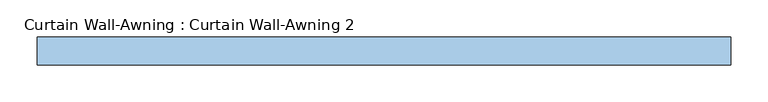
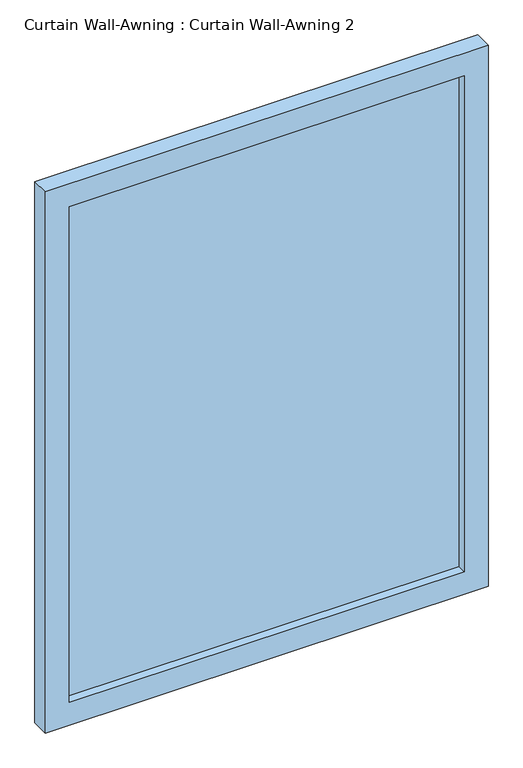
"""IFC4 building model written with IfcOpenShell, lengths in millimetres: window geometry, Curtain Wall-Awning : Curtain Wall-Awning 2."""

import ifcopenshell
import ifcopenshell.guid

model = None  # the IFC model being written
_history = None  # IfcOwnerHistory: only IFC2X3 demands one
_inside = {}  # id of a spatial element -> (the spatial element, [elements in it])
_under = {}  # id of a project, library or spatial element -> (it, [spatial elements below it])
_declared = {}  # id of a project -> (the project, [libraries it declares])
_typed = {}  # id of a type object -> (the type object, [elements of that type])
_made_of = {}  # id of a material, layer set ... -> (it, [elements and type objects made of it])


def new_model(schema):
    """Start an empty IFC model of exactly this schema.

    Asked for "IFC4X3", IfcOpenShell would pick the latest addendum, in which some entities
    have other attributes; the version numbers below select the first issue.
    IFC2X3 requires an IfcOwnerHistory on every rooted entity: one is made here for all.
    """
    global model, _history
    if schema == "IFC4X3":
        model = ifcopenshell.file(schema_version=(4, 3, 0, 0))
    else:
        model = ifcopenshell.file(schema=schema)
    _inside.clear()
    _under.clear()
    _declared.clear()
    _typed.clear()
    _made_of.clear()
    _history = None
    if model.schema == "IFC2X3":
        org = make("IfcOrganization", Name="unknown")
        user = make(
            "IfcPersonAndOrganization",
            ThePerson=make("IfcPerson", FamilyName="unknown"),
            TheOrganization=org,
        )
        app = make(
            "IfcApplication",
            ApplicationDeveloper=org,
            Version="unknown",
            ApplicationFullName="unknown",
            ApplicationIdentifier="unknown",
        )
        _history = make(
            "IfcOwnerHistory",
            OwningUser=user,
            OwningApplication=app,
            ChangeAction="ADDED",
            CreationDate=0,
        )
    return model


def make(cls, **values):
    """One entity of the class cls with the attributes given. An attribute that is None is left unset."""
    return model.create_entity(
        cls, **{name: value for name, value in values.items() if value is not None}
    )


def rooted(cls, **values):
    """An entity with a GlobalId (a new one), such as an element, a storey or a relation."""
    return make(cls, GlobalId=ifcopenshell.guid.new(), OwnerHistory=_history, **values)


def si_unit(unit_type, name, prefix=None):
    """IfcSIUnit, for example si_unit("LENGTHUNIT", "METRE", prefix="MILLI")."""
    return make("IfcSIUnit", UnitType=unit_type, Prefix=prefix, Name=name)


def assignment(units):
    """IfcUnitAssignment: the units of a project."""
    return None if units is None else make("IfcUnitAssignment", Units=units)


def point(xyz):
    """IfcCartesianPoint."""
    return None if xyz is None else make("IfcCartesianPoint", Coordinates=xyz)


def direction(xyz):
    """IfcDirection."""
    return None if xyz is None else make("IfcDirection", DirectionRatios=xyz)


def frame(location, z_axis=None, x_axis=None):
    """IfcAxis2Placement3D, a coordinate frame: its origin and axes. An axis left out is left unset."""
    return make(
        "IfcAxis2Placement3D",
        Location=point(location),
        Axis=direction(z_axis),
        RefDirection=direction(x_axis),
    )


def origin():
    """The frame at (0, 0, 0) with its axes left unset."""
    return frame((0.0, 0.0, 0.0))


def place(relative_to, where):
    """IfcLocalPlacement: puts the frame where relative to a parent placement (None: the world)."""
    return make(
        "IfcLocalPlacement", PlacementRelTo=relative_to, RelativePlacement=where
    )


def context(
    kind, dimensions, precision=None, world=None, true_north=None, identifier=None
):
    """IfcGeometricRepresentationContext, for example the 3D "Model" context."""
    return make(
        "IfcGeometricRepresentationContext",
        ContextIdentifier=identifier,
        ContextType=kind,
        CoordinateSpaceDimension=dimensions,
        Precision=precision,
        WorldCoordinateSystem=world,
        TrueNorth=true_north,
    )


def project(units=None, contexts=None):
    """IfcProject with its units and contexts."""
    return rooted(
        "IfcProject",
        Name="project",
        RepresentationContexts=contexts,
        UnitsInContext=assignment(units),
    )


def spatial(cls, under=None, at=None, **own):
    """A site, building, storey or space (cls), placed at a placement, below another one or the project."""
    s = rooted(cls, ObjectPlacement=at, **own)
    if under is not None:
        _under.setdefault(under.id(), (under, []))[1].append(s)
    return s


def polyline(points):
    """IfcPolyline through the points."""
    return make("IfcPolyline", Points=[point(p) for p in points])


def outline(outer, holes=None, kind="AREA"):
    """IfcArbitraryClosedProfileDef: a profile drawn as a closed curve; with holes, ...WithVoids."""
    if holes is None:
        return make("IfcArbitraryClosedProfileDef", ProfileType=kind, OuterCurve=outer)
    return make(
        "IfcArbitraryProfileDefWithVoids",
        ProfileType=kind,
        OuterCurve=outer,
        InnerCurves=holes,
    )


def extrude(swept, where, along, depth):
    """IfcExtrudedAreaSolid: the profile swept, set in the frame where, extruded along a direction by depth."""
    return make(
        "IfcExtrudedAreaSolid",
        SweptArea=swept,
        Position=where,
        ExtrudedDirection=direction(along),
        Depth=depth,
    )


def shape(context_of_items, identifier, shape_type, items):
    """IfcShapeRepresentation: the items that make up one representation, for example the "Body"."""
    return make(
        "IfcShapeRepresentation",
        ContextOfItems=context_of_items,
        RepresentationIdentifier=identifier,
        RepresentationType=shape_type,
        Items=items,
    )


def source(mapping_origin, context_of_items, identifier, shape_type, items):
    """IfcRepresentationMap: a shape defined once, which mapped items show again and again."""
    return make(
        "IfcRepresentationMap",
        MappingOrigin=mapping_origin,
        MappedRepresentation=shape(context_of_items, identifier, shape_type, items),
    )


def transform(
    local_origin,
    x_axis=None,
    y_axis=None,
    z_axis=None,
    scale=None,
    scale2=None,
    scale3=None,
    uniform=True,
):
    """IfcCartesianTransformationOperator3D, or its non-uniform kind. x_axis, y_axis, z_axis: its Axis1, 2, 3."""
    if uniform:
        return make(
            "IfcCartesianTransformationOperator3D",
            Axis1=direction(x_axis),
            Axis2=direction(y_axis),
            LocalOrigin=point(local_origin),
            Scale=scale,
            Axis3=direction(z_axis),
        )
    return make(
        "IfcCartesianTransformationOperator3DnonUniform",
        Axis1=direction(x_axis),
        Axis2=direction(y_axis),
        LocalOrigin=point(local_origin),
        Scale=scale,
        Axis3=direction(z_axis),
        Scale2=scale2,
        Scale3=scale3,
    )


def mapped(mapping_source, mapping_target):
    """IfcMappedItem: shows the shape of a source again, moved by a transform."""
    return make(
        "IfcMappedItem", MappingSource=mapping_source, MappingTarget=mapping_target
    )


def made_of(thing, what):
    """Note that an element or type object is made of a material, layer set ...; save() writes the relation."""
    if what is not None:
        _made_of.setdefault(what.id(), (what, []))[1].append(thing)
    return thing


def element(
    cls,
    number,
    at=None,
    inside=None,
    cuts=None,
    type_object=None,
    material=None,
    context=None,
    identifier="Body",
    shape_type=None,
    held_by="IfcProductDefinitionShape",
    body=None,
    shapes=None,
    **own,
):
    """One element of the class cls, such as IfcWall. Its Tag is "e" and its number.

    at: its placement. inside: the storey or other place that contains it. cuts: it is an
    opening in that element (IfcRelVoidsElement). A single representation is given by context,
    identifier, shape_type and body (its items); several are given by shapes. held_by: the class
    of the entity that holds the representations. save() writes the other relations.
    """
    e = rooted(cls, Tag="e%d" % number, ObjectPlacement=at, **own)
    if body is not None:
        shapes = [shape(context, identifier, shape_type, body)]
    if shapes is not None:
        e.Representation = make(held_by, Representations=shapes)
    if inside is not None:
        _inside.setdefault(inside.id(), (inside, []))[1].append(e)
    if cuts is not None:
        rooted(
            "IfcRelVoidsElement", RelatingBuildingElement=cuts, RelatedOpeningElement=e
        )
    if type_object is not None:
        _typed.setdefault(type_object.id(), (type_object, []))[1].append(e)
    return made_of(e, material)


def aggregate(whole, parts):
    """IfcRelAggregates: a whole, such as a stair, and the parts it consists of."""
    return rooted("IfcRelAggregates", RelatingObject=whole, RelatedObjects=parts)


def save(model, path):
    """Write the relations noted so far, then the file.

    IfcRelAggregates (storeys below a building ...), IfcRelContainedInSpatialStructure (elements
    in a storey), IfcRelDefinesByType, IfcRelAssociatesMaterial and IfcRelDeclares: one each for
    every whole, place, type object, material and project.
    """
    for whole, parts in _under.values():
        aggregate(whole, parts)
    for where, things in _inside.values():
        rooted(
            "IfcRelContainedInSpatialStructure",
            RelatedElements=things,
            RelatingStructure=where,
        )
    for kind, things in _typed.values():
        rooted("IfcRelDefinesByType", RelatedObjects=things, RelatingType=kind)
    for what, things in _made_of.values():
        rooted("IfcRelAssociatesMaterial", RelatedObjects=things, RelatingMaterial=what)
    for by, libraries in _declared.values():
        rooted("IfcRelDeclares", RelatingContext=by, RelatedDefinitions=libraries)
    model.write(path)


def curtain_wall_awning_curtain_wall_awning_2_fe653369(model_context):
    return source(origin(), model_context, "Body", "SweptSolid", [
        extrude(outline(polyline([(417.5125, -19.05), (-417.5125, -19.05), (-417.5125, -6.35), (417.5125, -6.35), (417.5125, -19.05)])), frame((0.0, 0.0, 50.8), z_axis=(0.0, 0.0, 1.0), x_axis=(1.0, 0.0, 0.0)), (0.0, 0.0, 1.0), 1109.0360779),
        extrude(outline(polyline([(1210.6360779, -468.3125), (0.0, -468.3125), (0.0, 468.3125), (1210.6360779, 468.3125), (1210.6360779, -468.3125)]), holes=[polyline([(1159.8360779, -417.5125), (1159.8360779, 417.5125), (50.8, 417.5125), (50.8, -417.5125), (1159.8360779, -417.5125)])]), frame((0.0, -38.1, 0.0), z_axis=(0.0, 1.0, 0.0), x_axis=(0.0, 0.0, 1.0)), (0.0, 0.0, 1.0), 38.1),
    ])


if __name__ == "__main__":
    model = new_model("IFC4")
    model_context = context("Model", 3, world=origin())
    ifc_project = project(units=[si_unit("LENGTHUNIT", "METRE", prefix="MILLI")], contexts=[model_context])
    site = spatial("IfcSite", under=ifc_project)
    building = spatial("IfcBuilding", under=site)
    placement = place(None, origin())
    curtain_wall_awning_curtain_wall_awning_2_shape = curtain_wall_awning_curtain_wall_awning_2_fe653369(model_context)
    element("IfcWindow", 1, ObjectType="Curtain Wall-Awning : Curtain Wall-Awning 2", at=placement, inside=building, context=model_context, shape_type="MappedRepresentation", body=[
        mapped(curtain_wall_awning_curtain_wall_awning_2_shape, transform((0.0, 0.0, 0.0), x_axis=(1.0, 0.0, 0.0), y_axis=(0.0, 1.0, 0.0), z_axis=(0.0, 0.0, 1.0))),
    ])
    save(model, "model.ifc")
